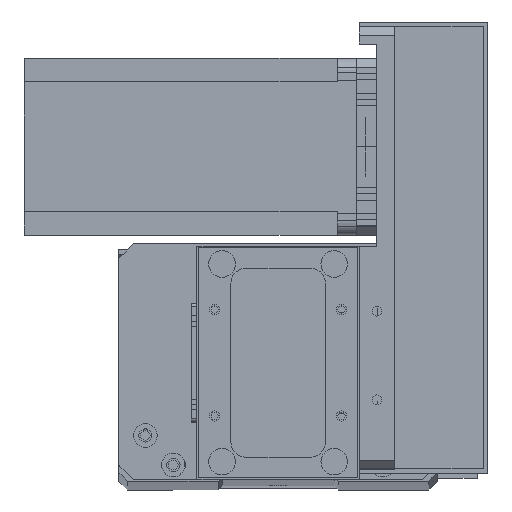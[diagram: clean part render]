
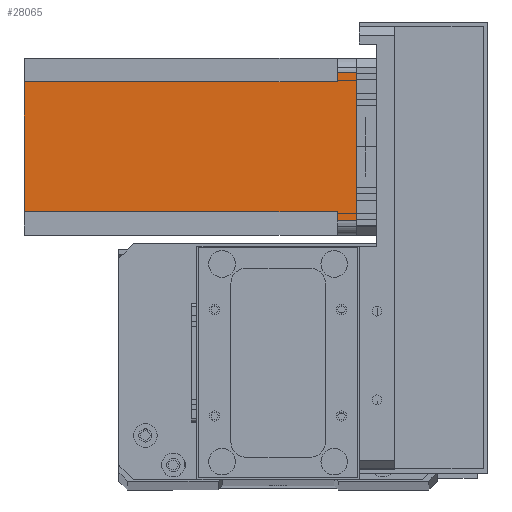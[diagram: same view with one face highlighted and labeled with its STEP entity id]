
A CAD part, top view. The second image highlights one B-rep face of the part: STEP entity #28065.
In plain terms, the highlighted planar face has unit normal (0, 0, 1) as drawn and (0, 1, 0) by its records, which use the part's own axes.
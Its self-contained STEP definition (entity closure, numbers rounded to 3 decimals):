
#61 = VECTOR ( 'NONE', #319, 1000. ) ;
#316 = EDGE_CURVE ( 'NONE', #28033, #19678, #2153, .T. ) ;
#319 = DIRECTION ( 'NONE',  ( 0., 0., -1. ) ) ;
#1049 = CARTESIAN_POINT ( 'NONE',  ( 8., 60., -6.5 ) ) ;
#1422 = ORIENTED_EDGE ( 'NONE', *, *, #9116, .T. ) ;
#1569 = CARTESIAN_POINT ( 'NONE',  ( 52., 60., -6.5 ) ) ;
#1644 = CARTESIAN_POINT ( 'NONE',  ( 5., 60., 0. ) ) ;
#2067 = ORIENTED_EDGE ( 'NONE', *, *, #4522, .F. ) ;
#2153 = LINE ( 'NONE', #27750, #14496 ) ;
#2777 = VECTOR ( 'NONE', #25694, 1000. ) ;
#3155 = LINE ( 'NONE', #9653, #22062 ) ;
#3278 = EDGE_LOOP ( 'NONE', ( #19146, #12286, #9701, #21163, #20342, #2067, #1422, #5865 ) ) ;
#3521 = DIRECTION ( 'NONE',  ( -1., 0., 0. ) ) ;
#3582 = VERTEX_POINT ( 'NONE', #16491 ) ;
#3682 = CARTESIAN_POINT ( 'NONE',  ( 8., 60., -112.5 ) ) ;
#4359 = LINE ( 'NONE', #10942, #2777 ) ;
#4522 = EDGE_CURVE ( 'NONE', #6405, #9092, #9456, .T. ) ;
#5308 = CARTESIAN_POINT ( 'NONE',  ( 55., 60., -6.5 ) ) ;
#5560 = CARTESIAN_POINT ( 'NONE',  ( 52., 60., -6.5 ) ) ;
#5583 = FACE_OUTER_BOUND ( 'NONE', #3278, .T. ) ;
#5860 = EDGE_CURVE ( 'NONE', #3582, #23218, #4359, .T. ) ;
#5865 = ORIENTED_EDGE ( 'NONE', *, *, #316, .T. ) ;
#6405 = VERTEX_POINT ( 'NONE', #30788 ) ;
#6791 = EDGE_CURVE ( 'NONE', #17663, #14087, #24712, .T. ) ;
#6969 = LINE ( 'NONE', #7170, #19316 ) ;
#7170 = CARTESIAN_POINT ( 'NONE',  ( 0., 60., 0. ) ) ;
#8525 = AXIS2_PLACEMENT_3D ( 'NONE', #29542, #14703, #31557 ) ;
#9092 = VERTEX_POINT ( 'NONE', #28044 ) ;
#9116 = EDGE_CURVE ( 'NONE', #6405, #28033, #31957, .T. ) ;
#9454 = CARTESIAN_POINT ( 'NONE',  ( 5., 60., -6.5 ) ) ;
#9456 = LINE ( 'NONE', #3682, #20242 ) ;
#9653 = CARTESIAN_POINT ( 'NONE',  ( 0., 60., -112.5 ) ) ;
#9673 = DIRECTION ( 'NONE',  ( -1., 0., 0. ) ) ;
#9701 = ORIENTED_EDGE ( 'NONE', *, *, #21747, .F. ) ;
#10942 = CARTESIAN_POINT ( 'NONE',  ( 52., 60., -112.5 ) ) ;
#12286 = ORIENTED_EDGE ( 'NONE', *, *, #6791, .T. ) ;
#12997 = VECTOR ( 'NONE', #3521, 1000. ) ;
#14087 = VERTEX_POINT ( 'NONE', #5308 ) ;
#14496 = VECTOR ( 'NONE', #31396, 1000. ) ;
#14554 = CARTESIAN_POINT ( 'NONE',  ( 55., 60., 0. ) ) ;
#14703 = DIRECTION ( 'NONE',  ( 0., 1., 0. ) ) ;
#16491 = CARTESIAN_POINT ( 'NONE',  ( 52., 60., -112.5 ) ) ;
#17544 = CARTESIAN_POINT ( 'NONE',  ( 55., 60., -112.5 ) ) ;
#17663 = VERTEX_POINT ( 'NONE', #14554 ) ;
#17753 = LINE ( 'NONE', #1569, #30929 ) ;
#18809 = DIRECTION ( 'NONE',  ( 1., 0., 0. ) ) ;
#19146 = ORIENTED_EDGE ( 'NONE', *, *, #24390, .F. ) ;
#19316 = VECTOR ( 'NONE', #9673, 1000. ) ;
#19678 = VERTEX_POINT ( 'NONE', #1644 ) ;
#20242 = VECTOR ( 'NONE', #30893, 1000. ) ;
#20342 = ORIENTED_EDGE ( 'NONE', *, *, #23656, .T. ) ;
#21163 = ORIENTED_EDGE ( 'NONE', *, *, #5860, .F. ) ;
#21747 = EDGE_CURVE ( 'NONE', #23218, #14087, #17753, .T. ) ;
#22062 = VECTOR ( 'NONE', #24386, 1000. ) ;
#23218 = VERTEX_POINT ( 'NONE', #5560 ) ;
#23656 = EDGE_CURVE ( 'NONE', #3582, #9092, #3155, .T. ) ;
#24386 = DIRECTION ( 'NONE',  ( -1., 0., 0. ) ) ;
#24390 = EDGE_CURVE ( 'NONE', #17663, #19678, #6969, .T. ) ;
#24712 = LINE ( 'NONE', #17544, #61 ) ;
#25694 = DIRECTION ( 'NONE',  ( 0., 0., 1. ) ) ;
#27038 = PLANE ( 'NONE',  #8525 ) ;
#27750 = CARTESIAN_POINT ( 'NONE',  ( 5., 60., -112.5 ) ) ;
#28033 = VERTEX_POINT ( 'NONE', #9454 ) ;
#28044 = CARTESIAN_POINT ( 'NONE',  ( 8., 60., -112.5 ) ) ;
#28065 = ADVANCED_FACE ( 'NONE', ( #5583 ), #27038, .T. ) ;
#29542 = CARTESIAN_POINT ( 'NONE',  ( 0., 60., -112.5 ) ) ;
#30788 = CARTESIAN_POINT ( 'NONE',  ( 8., 60., -6.5 ) ) ;
#30893 = DIRECTION ( 'NONE',  ( 0., 0., -1. ) ) ;
#30929 = VECTOR ( 'NONE', #18809, 1000. ) ;
#31396 = DIRECTION ( 'NONE',  ( 0., 0., 1. ) ) ;
#31557 = DIRECTION ( 'NONE',  ( 0., 0., 1. ) ) ;
#31957 = LINE ( 'NONE', #1049, #12997 ) ;
